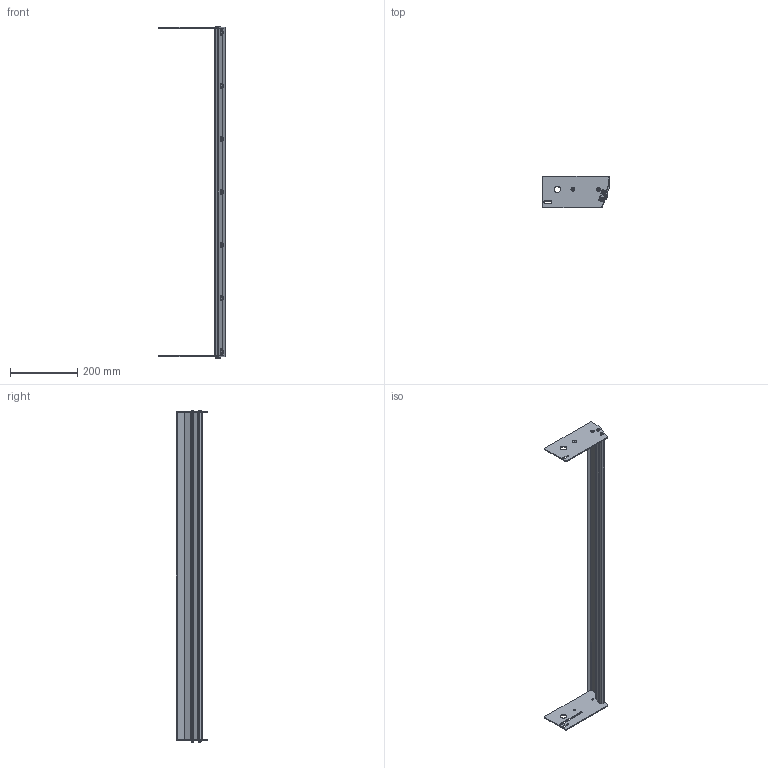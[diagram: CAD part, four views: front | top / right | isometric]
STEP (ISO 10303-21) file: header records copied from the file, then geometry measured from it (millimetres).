
FILE_DESCRIPTION((''),'2;1');
FILE_NAME('351199-38_ASM','2023-03-15T',('jenni.wallner'),(''),'PRO/ENGINEER BY PARAMETRIC TECHNOLOGY CORPORATION, 2012420','PRO/ENGINEER BY PARAMETRIC TECHNOLOGY CORPORATION, 2012420','');
FILE_SCHEMA(('CONFIG_CONTROL_DESIGN'));
Length unit declared in the file: inch
Products named in the file (10): 9506XXM_950612M; 9505XXM_950512M; 605279P; 351202-WW_351202-38; 990603M; 351201; 351203-WW_351203-38; 351200_DEFAULT_AS_MACHINED_; ASM0001_ASM; 351199-38_ASM
Assembly tree (30 placements, depth 3):
  351199-38_ASM
    ASM0001_ASM
      9506XXM_950612M  x7
      9505XXM_950512M  x4
      605279P  x7
      351202-WW_351202-38
      990603M  x7
      351201
      351203-WW_351203-38
      351200_DEFAULT_AS_MACHINED_
Bounding box: 196.11 x 93.08 x 984.29 mm (x, y, z)
Volume: 493046.2 mm3; surface area: 403676.8 mm2
Topology: 29 solids, 29 shells, 542 faces, 1274 edges, 812 vertices
Faces by surface type: plane 250, cylinder 184, cone 108
Entity records: 8632 total; most frequent: DIRECTION 1571, CARTESIAN_POINT 1565, ORIENTED_EDGE 1342, EDGE_CURVE 671, AXIS2_PLACEMENT_3D 596, VERTEX_POINT 440, VECTOR 379, LINE 379
